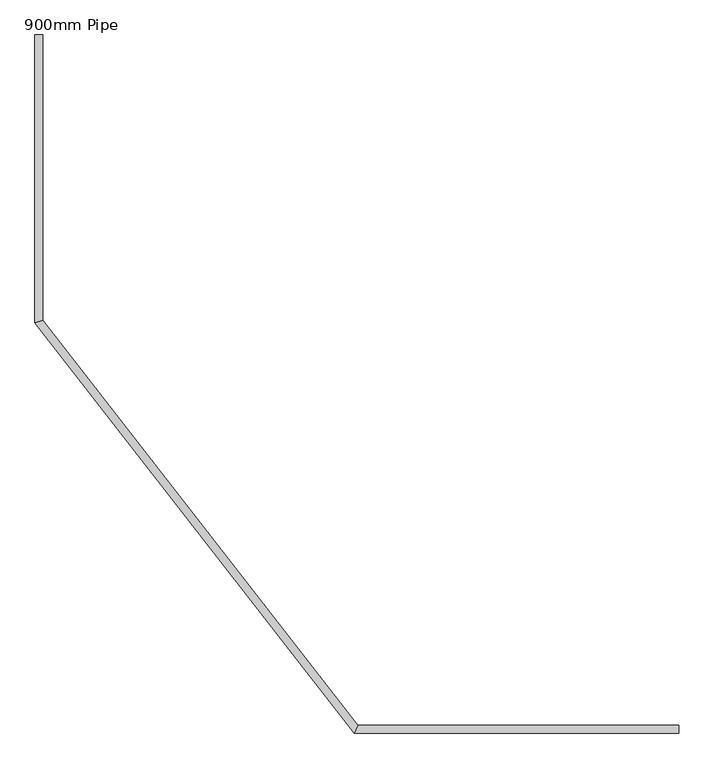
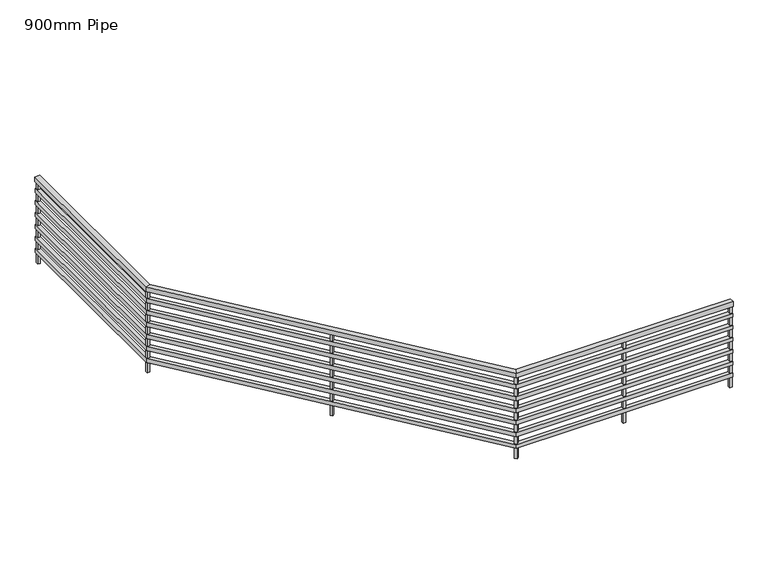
"""IFC4 building model written with IfcOpenShell, lengths in millimetres: railing geometry, 900mm Pipe."""

from ifc_helpers import new_model, si_unit, frame, origin, place, context, project, spatial, polyline, outline, extrude, faceted_brep, source, transform, mapped, element, save


def railing_900mm_pipe_5438d2cb(model_context):
    return source(origin(), model_context, "Body", "SolidModel", [
        faceted_brep([(-7787.1962165, -1338.1208451, 12700.0), (-7787.1962165, -1338.1208451, 12650.0), (-7837.1962165, -1338.1208451, 12650.0), (-7837.1962165, -1338.1208451, 12700.0), (-7787.1962165, -3215.2155584, 12700.0), (-7787.1962165, -3215.2155584, 12650.0), (-7837.1962165, -3232.3709459, 12650.0), (-7837.1962165, -3232.3709459, 12700.0), (-5712.7420262, -5882.3709459, 12700.0), (-5712.7420262, -5882.3709459, 12650.0), (-5737.1962165, -5932.3709459, 12650.0), (-5737.1962165, -5932.3709459, 12700.0), (-3598.9496412, -5882.3709459, 12700.0), (-3598.9496412, -5932.3709459, 12700.0), (-3598.9496412, -5932.3709459, 12650.0), (-3598.9496412, -5882.3709459, 12650.0)], [[[0, 1, 2, 3]], [[1, 0, 4, 5]], [[2, 1, 5, 6]], [[3, 2, 6, 7]], [[0, 3, 7, 4]], [[5, 4, 8, 9]], [[6, 5, 9, 10]], [[7, 6, 10, 11]], [[4, 7, 11, 8]], [[12, 13, 14, 15]], [[9, 8, 12, 15]], [[10, 9, 15, 14]], [[11, 10, 14, 13]], [[8, 11, 13, 12]]]),
        faceted_brep([(-7792.1962165, -1338.1208451, 12575.0), (-7792.1962165, -1338.1208451, 12535.0), (-7832.1962165, -1338.1208451, 12535.0), (-7832.1962165, -1338.1208451, 12575.0), (-7792.1962165, -3216.9310972, 12575.0), (-7792.1962165, -3216.9310972, 12535.0), (-7832.1962165, -3230.6554072, 12535.0), (-7832.1962165, -3230.6554072, 12575.0), (-5715.1874453, -5887.3709459, 12575.0), (-5715.1874453, -5887.3709459, 12535.0), (-5734.7507975, -5927.3709459, 12535.0), (-5734.7507975, -5927.3709459, 12575.0), (-3598.9496412, -5887.3709459, 12575.0), (-3598.9496412, -5927.3709459, 12575.0), (-3598.9496412, -5927.3709459, 12535.0), (-3598.9496412, -5887.3709459, 12535.0)], [[[0, 1, 2, 3]], [[1, 0, 4, 5]], [[2, 1, 5, 6]], [[3, 2, 6, 7]], [[0, 3, 7, 4]], [[5, 4, 8, 9]], [[6, 5, 9, 10]], [[7, 6, 10, 11]], [[4, 7, 11, 8]], [[12, 13, 14, 15]], [[9, 8, 12, 15]], [[10, 9, 15, 14]], [[11, 10, 14, 13]], [[8, 11, 13, 12]]]),
        faceted_brep([(-7792.1962165, -1338.1208451, 12450.0), (-7792.1962165, -1338.1208451, 12410.0), (-7832.1962165, -1338.1208451, 12410.0), (-7832.1962165, -1338.1208451, 12450.0), (-7792.1962165, -3216.9310972, 12450.0), (-7792.1962165, -3216.9310972, 12410.0), (-7832.1962165, -3230.6554072, 12410.0), (-7832.1962165, -3230.6554072, 12450.0), (-5715.1874453, -5887.3709459, 12450.0), (-5715.1874453, -5887.3709459, 12410.0), (-5734.7507975, -5927.3709459, 12410.0), (-5734.7507975, -5927.3709459, 12450.0), (-3598.9496412, -5887.3709459, 12450.0), (-3598.9496412, -5927.3709459, 12450.0), (-3598.9496412, -5927.3709459, 12410.0), (-3598.9496412, -5887.3709459, 12410.0)], [[[0, 1, 2, 3]], [[1, 0, 4, 5]], [[2, 1, 5, 6]], [[3, 2, 6, 7]], [[0, 3, 7, 4]], [[5, 4, 8, 9]], [[6, 5, 9, 10]], [[7, 6, 10, 11]], [[4, 7, 11, 8]], [[12, 13, 14, 15]], [[9, 8, 12, 15]], [[10, 9, 15, 14]], [[11, 10, 14, 13]], [[8, 11, 13, 12]]]),
        faceted_brep([(-7792.1962165, -1338.1208451, 12325.0), (-7792.1962165, -1338.1208451, 12285.0), (-7832.1962165, -1338.1208451, 12285.0), (-7832.1962165, -1338.1208451, 12325.0), (-7792.1962165, -3216.9310972, 12325.0), (-7792.1962165, -3216.9310972, 12285.0), (-7832.1962165, -3230.6554072, 12285.0), (-7832.1962165, -3230.6554072, 12325.0), (-5715.1874453, -5887.3709459, 12325.0), (-5715.1874453, -5887.3709459, 12285.0), (-5734.7507975, -5927.3709459, 12285.0), (-5734.7507975, -5927.3709459, 12325.0), (-3598.9496412, -5887.3709459, 12325.0), (-3598.9496412, -5927.3709459, 12325.0), (-3598.9496412, -5927.3709459, 12285.0), (-3598.9496412, -5887.3709459, 12285.0)], [[[0, 1, 2, 3]], [[1, 0, 4, 5]], [[2, 1, 5, 6]], [[3, 2, 6, 7]], [[0, 3, 7, 4]], [[5, 4, 8, 9]], [[6, 5, 9, 10]], [[7, 6, 10, 11]], [[4, 7, 11, 8]], [[12, 13, 14, 15]], [[9, 8, 12, 15]], [[10, 9, 15, 14]], [[11, 10, 14, 13]], [[8, 11, 13, 12]]]),
        faceted_brep([(-7792.1962165, -1338.1208451, 12200.0), (-7792.1962165, -1338.1208451, 12160.0), (-7832.1962165, -1338.1208451, 12160.0), (-7832.1962165, -1338.1208451, 12200.0), (-7792.1962165, -3216.9310972, 12200.0), (-7792.1962165, -3216.9310972, 12160.0), (-7832.1962165, -3230.6554072, 12160.0), (-7832.1962165, -3230.6554072, 12200.0), (-5715.1874453, -5887.3709459, 12200.0), (-5715.1874453, -5887.3709459, 12160.0), (-5734.7507975, -5927.3709459, 12160.0), (-5734.7507975, -5927.3709459, 12200.0), (-3598.9496412, -5887.3709459, 12200.0), (-3598.9496412, -5927.3709459, 12200.0), (-3598.9496412, -5927.3709459, 12160.0), (-3598.9496412, -5887.3709459, 12160.0)], [[[0, 1, 2, 3]], [[1, 0, 4, 5]], [[2, 1, 5, 6]], [[3, 2, 6, 7]], [[0, 3, 7, 4]], [[5, 4, 8, 9]], [[6, 5, 9, 10]], [[7, 6, 10, 11]], [[4, 7, 11, 8]], [[12, 13, 14, 15]], [[9, 8, 12, 15]], [[10, 9, 15, 14]], [[11, 10, 14, 13]], [[8, 11, 13, 12]]]),
        faceted_brep([(-7792.1962165, -1338.1208451, 12075.0), (-7792.1962165, -1338.1208451, 12035.0), (-7832.1962165, -1338.1208451, 12035.0), (-7832.1962165, -1338.1208451, 12075.0), (-7792.1962165, -3216.9310972, 12075.0), (-7792.1962165, -3216.9310972, 12035.0), (-7832.1962165, -3230.6554072, 12035.0), (-7832.1962165, -3230.6554072, 12075.0), (-5715.1874453, -5887.3709459, 12075.0), (-5715.1874453, -5887.3709459, 12035.0), (-5734.7507975, -5927.3709459, 12035.0), (-5734.7507975, -5927.3709459, 12075.0), (-3598.9496412, -5887.3709459, 12075.0), (-3598.9496412, -5927.3709459, 12075.0), (-3598.9496412, -5927.3709459, 12035.0), (-3598.9496412, -5887.3709459, 12035.0)], [[[0, 1, 2, 3]], [[1, 0, 4, 5]], [[2, 1, 5, 6]], [[3, 2, 6, 7]], [[0, 3, 7, 4]], [[5, 4, 8, 9]], [[6, 5, 9, 10]], [[7, 6, 10, 11]], [[4, 7, 11, 8]], [[12, 13, 14, 15]], [[9, 8, 12, 15]], [[10, 9, 15, 14]], [[11, 10, 14, 13]], [[8, 11, 13, 12]]]),
        faceted_brep([(-7792.1962165, -1338.1208451, 11950.0), (-7792.1962165, -1338.1208451, 11910.0), (-7832.1962165, -1338.1208451, 11910.0), (-7832.1962165, -1338.1208451, 11950.0), (-7792.1962165, -3216.9310972, 11950.0), (-7792.1962165, -3216.9310972, 11910.0), (-7832.1962165, -3230.6554072, 11910.0), (-7832.1962165, -3230.6554072, 11950.0), (-5715.1874453, -5887.3709459, 11950.0), (-5715.1874453, -5887.3709459, 11910.0), (-5734.7507975, -5927.3709459, 11910.0), (-5734.7507975, -5927.3709459, 11950.0), (-3598.9496412, -5887.3709459, 11950.0), (-3598.9496412, -5927.3709459, 11950.0), (-3598.9496412, -5927.3709459, 11910.0), (-3598.9496412, -5887.3709459, 11910.0)], [[[0, 1, 2, 3]], [[1, 0, 4, 5]], [[2, 1, 5, 6]], [[3, 2, 6, 7]], [[0, 3, 7, 4]], [[5, 4, 8, 9]], [[6, 5, 9, 10]], [[7, 6, 10, 11]], [[4, 7, 11, 8]], [[12, 13, 14, 15]], [[9, 8, 12, 15]], [[10, 9, 15, 14]], [[11, 10, 14, 13]], [[8, 11, 13, 12]]]),
        extrude(outline(polyline([(-4674.4593813, -5919.8709459), (-4674.4593813, -5894.8709459), (-4649.4593813, -5894.8709459), (-4649.4593813, -5919.8709459), (-4674.4593813, -5919.8709459)])), frame((0.0, 0.0, 11800.0), z_axis=(0.0, 0.0, 1.0), x_axis=(1.0, 0.0, 0.0)), (0.0, 0.0, 1.0), 850.0),
        extrude(outline(polyline([(-6786.1238293, -4563.389454), (-6766.3900239, -4548.0409387), (-6751.0415086, -4567.7747441), (-6770.775314, -4583.1232594), (-6786.1238293, -4563.389454)])), frame((0.0, 0.0, 11800.0), z_axis=(0.0, 0.0, 1.0), x_axis=(1.0, 0.0, 0.0)), (0.0, 0.0, 1.0), 850.0),
        extrude(outline(polyline([(-5742.5102818, -5905.1783009), (-5722.7764763, -5889.8297855), (-5707.427961, -5909.563591), (-5727.1617664, -5924.9121063), (-5742.5102818, -5905.1783009)])), frame((0.0, 0.0, 11800.0), z_axis=(0.0, 0.0, 1.0), x_axis=(1.0, 0.0, 0.0)), (0.0, 0.0, 1.0), 850.0),
        extrude(outline(polyline([(-7824.6962165, -3211.2932522), (-7799.6962165, -3211.2932522), (-7799.6962165, -3236.2932522), (-7824.6962165, -3236.2932522), (-7824.6962165, -3211.2932522)])), frame((0.0, 0.0, 11800.0), z_axis=(0.0, 0.0, 1.0), x_axis=(1.0, 0.0, 0.0)), (0.0, 0.0, 1.0), 850.0),
        extrude(outline(polyline([(-3623.9496412, -5919.8709459), (-3623.9496412, -5894.8709459), (-3598.9496412, -5894.8709459), (-3598.9496412, -5919.8709459), (-3623.9496412, -5919.8709459)])), frame((0.0, 0.0, 11800.0), z_axis=(0.0, 0.0, 1.0), x_axis=(1.0, 0.0, 0.0)), (0.0, 0.0, 1.0), 850.0),
        extrude(outline(polyline([(-7824.6962165, -1338.1208451), (-7799.6962165, -1338.1208451), (-7799.6962165, -1363.1208451), (-7824.6962165, -1363.1208451), (-7824.6962165, -1338.1208451)])), frame((0.0, 0.0, 11800.0), z_axis=(0.0, 0.0, 1.0), x_axis=(1.0, 0.0, 0.0)), (0.0, 0.0, 1.0), 850.0),
    ])


if __name__ == "__main__":
    model = new_model("IFC4")
    model_context = context("Model", 3, world=origin())
    ifc_project = project(units=[si_unit("LENGTHUNIT", "METRE", prefix="MILLI")], contexts=[model_context])
    site = spatial("IfcSite", under=ifc_project)
    building = spatial("IfcBuilding", under=site)
    placement = place(None, origin())
    railing_900mm_pipe_shape = railing_900mm_pipe_5438d2cb(model_context)
    element("IfcRailing", 1, ObjectType="900mm Pipe", at=placement, inside=building, context=model_context, shape_type="MappedRepresentation", body=[
        mapped(railing_900mm_pipe_shape, transform((0.0, 0.0, 0.0), x_axis=(1.0, 0.0, 0.0), y_axis=(0.0, 1.0, 0.0), z_axis=(0.0, 0.0, 1.0))),
    ])
    save(model, "model.ifc")
